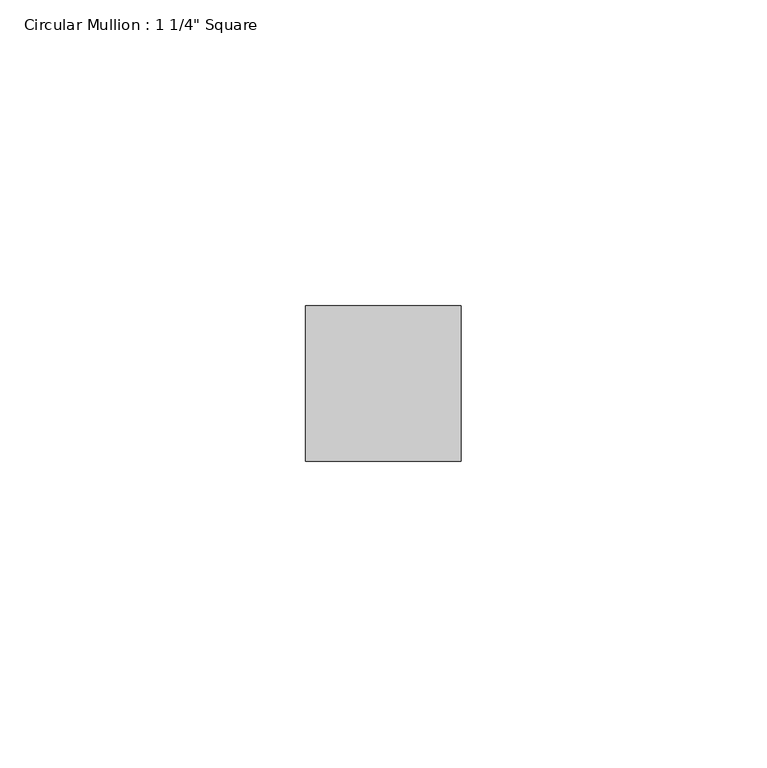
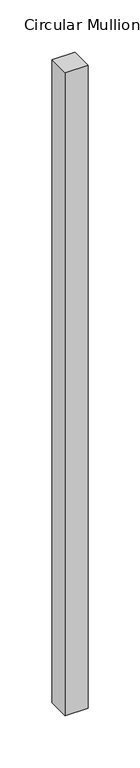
"""IFC4 building model written with IfcOpenShell, lengths in millimetres: member geometry."""

from ifc_helpers import new_model, si_unit, frame, origin, place, context, project, spatial, polyline, outline, extrude, source, transform, mapped, element, save


def member_8f214088(model_context):
    return source(origin(), model_context, "Body", "SweptSolid", [
        extrude(outline(polyline([(12.7, 12.7), (12.7, -12.7), (-12.7, -12.7), (-12.7, 12.7), (12.7, 12.7)])), frame((0.0, 0.0, -752.475), z_axis=(0.0, 0.0, 1.0), x_axis=(1.0, 0.0, 0.0)), (0.0, 0.0, 1.0), 752.475),
    ])


if __name__ == "__main__":
    model = new_model("IFC4")
    model_context = context("Model", 3, world=origin())
    ifc_project = project(units=[si_unit("LENGTHUNIT", "METRE", prefix="MILLI")], contexts=[model_context])
    site = spatial("IfcSite", under=ifc_project)
    building = spatial("IfcBuilding", under=site)
    placement = place(None, origin())
    member_shape = member_8f214088(model_context)
    element("IfcMember", 1, ObjectType="Circular Mullion : 1 1/4\" Square", at=placement, inside=building, context=model_context, shape_type="MappedRepresentation", body=[
        mapped(member_shape, transform((0.0, 0.0, 0.0), x_axis=(1.0, 0.0, 0.0), y_axis=(0.0, 1.0, 0.0), z_axis=(0.0, 0.0, 1.0))),
    ])
    save(model, "model.ifc")
